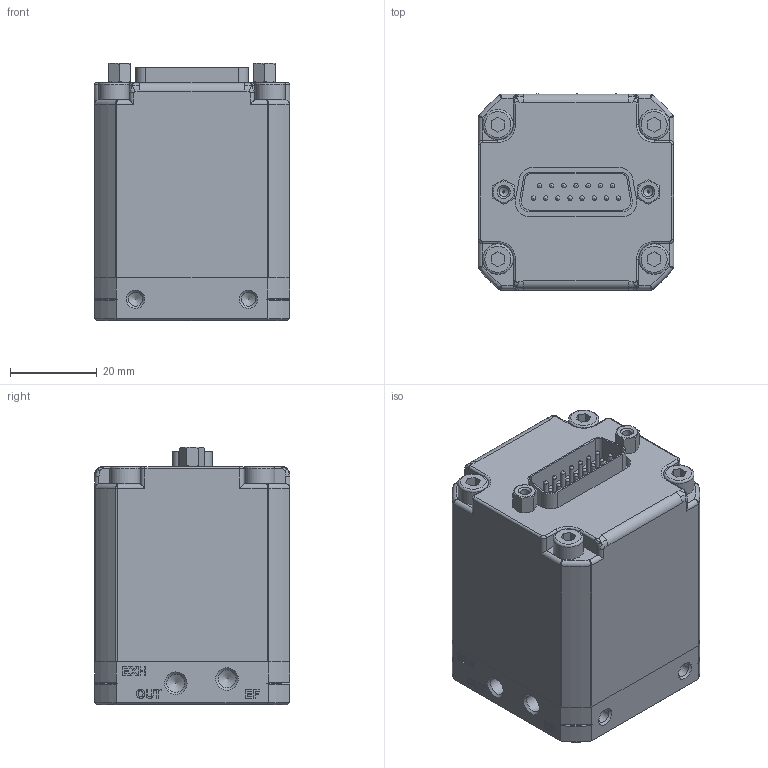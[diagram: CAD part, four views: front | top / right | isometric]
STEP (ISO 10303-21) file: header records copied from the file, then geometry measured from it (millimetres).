
FILE_DESCRIPTION(/* description */ ('R.PROP. TG0 F.E. CONTR.# FEED-VUOTO'),/* implementation_level */ '2;1');
FILE_NAME(/* name */ 'C:\PNX_VAULTFOLDER\Area Tecnica\Disegni\VARIE-3D\Componenti\1900 (vuoto)\190E2P_#_D_0090_##.stp',/* time_stamp */ '2019-09-13T15:05:42+02:00',/* author */ ('maniean1'),/* organization */ ('Pneumax S.p.A.'),/* preprocessor_version */ 'ST-DEVELOPER v17',/* originating_system */ 'Autodesk Inventor 2019',/* authorisation */ '');
FILE_SCHEMA (('AUTOMOTIVE_DESIGN { 1 0 10303 214 3 1 1 }'));
Length unit declared in the file: millimetre
Products named in the file (1): 190E2P.#.D.0090.##
Bounding box: 45 x 45.14 x 59.4 mm (x, y, z)
Volume: 105946.4 mm3; surface area: 16741.9 mm2
Topology: 1 solids, 4 shells, 467 faces, 1235 edges, 797 vertices
Faces by surface type: plane 236, cylinder 107, bspline 54, cone 39, sphere 19, torus 12
Full cylindrical faces by diameter (mm): 1 x15, 1.2 x1, 2.156 x2, 2.5 x1, 3.242 x8, 4.134 x3, 4.5 x1, 7 x4
Entity records: 16107 total; most frequent: CARTESIAN_POINT 4345, ORIENTED_EDGE 2400, DIRECTION 2225, EDGE_CURVE 1200, VERTEX_POINT 797, AXIS2_PLACEMENT_3D 769, LINE 687, VECTOR 687
